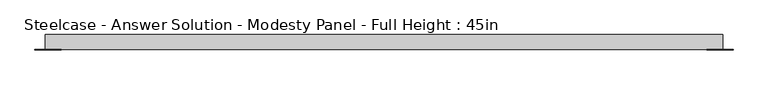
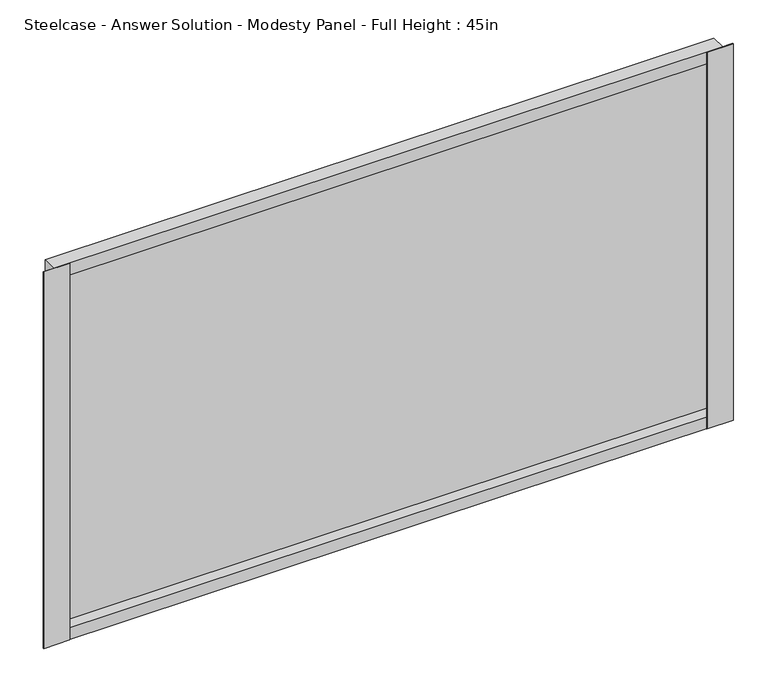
"""IFC4 building model written with IfcOpenShell, lengths in millimetres: furniture geometry, Steelcase - Answer Solution - Modesty Panel - Full Height : 45in."""

from ifc_helpers import new_model, si_unit, frame, origin, place, context, project, spatial, polyline, outline, extrude, faceted_brep, source, transform, mapped, element, save


def steelcase_answer_solution_modesty_panel_full_height_45in_2ea0c576(model_context):
    return source(origin(), model_context, "Body", "SolidModel", [
        extrude(outline(polyline([(1686.5400478, -14.2668826), (1686.5400478, -15.0593624), (1642.1248254, -15.0593624), (1642.1248254, -14.2668826), (1686.5400478, -14.2668826)])), frame((0.0, 0.0, 17.653), z_axis=(0.0, 0.0, 1.0), x_axis=(1.0, 0.0, 0.0)), (0.0, 0.0, 1.0), 678.18),
        extrude(outline(polyline([(556.9673392, -14.2668826), (556.9673392, -15.0593624), (512.5520826, -15.0593624), (512.5520826, -14.2668826), (556.9673392, -14.2668826)])), frame((0.0, 0.0, 17.653), z_axis=(0.0, 0.0, 1.0), x_axis=(1.0, 0.0, 0.0)), (0.0, 0.0, 1.0), 678.18),
        faceted_brep([(530.0780827, 10.9045177, 17.653), (530.0780827, -14.2668826, 17.653), (530.0780827, -14.2668826, 695.833), (530.0780827, 10.9045177, 695.833), (1669.0140827, -14.2668826, 17.653), (1669.0140827, 10.9045177, 17.653), (1669.0140827, 10.9045177, 695.833), (1669.0140827, -14.2668826, 695.833), (1668.2216165, 4.7831174, 39.243), (530.8705628, 4.7831174, 39.243), (530.8705628, -14.2668826, 39.243), (1668.2216165, -14.2668826, 39.243), (530.8705628, -14.2668826, 674.243), (1668.2216165, -14.2668826, 674.243), (530.8705628, 4.7831174, 674.243), (1668.2216165, 4.7831174, 674.243)], [[[0, 1, 2, 3]], [[4, 5, 6, 7]], [[8, 9, 10, 11]], [[0, 3, 6, 5]], [[4, 1, 0, 5]], [[2, 1, 4, 7], [10, 12, 13, 11]], [[3, 2, 7, 6]], [[14, 15, 13, 12]], [[9, 8, 15, 14]], [[12, 10, 9, 14]], [[11, 13, 15, 8]]]),
    ])


if __name__ == "__main__":
    model = new_model("IFC4")
    model_context = context("Model", 3, world=origin())
    ifc_project = project(units=[si_unit("LENGTHUNIT", "METRE", prefix="MILLI")], contexts=[model_context])
    site = spatial("IfcSite", under=ifc_project)
    building = spatial("IfcBuilding", under=site)
    placement = place(None, origin())
    steelcase_answer_solution_modesty_panel_full_height_45in_shape = steelcase_answer_solution_modesty_panel_full_height_45in_2ea0c576(model_context)
    element("IfcFurniture", 1, ObjectType="Steelcase - Answer Solution - Modesty Panel - Full Height : 45in", at=placement, inside=building, context=model_context, shape_type="MappedRepresentation", body=[
        mapped(steelcase_answer_solution_modesty_panel_full_height_45in_shape, transform((0.0, 0.0, 0.0), x_axis=(1.0, 0.0, 0.0), y_axis=(0.0, 1.0, 0.0), z_axis=(0.0, 0.0, 1.0))),
    ])
    save(model, "model.ifc")
